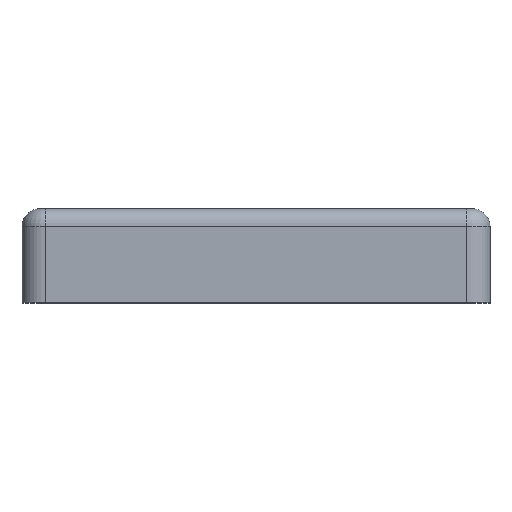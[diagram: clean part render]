
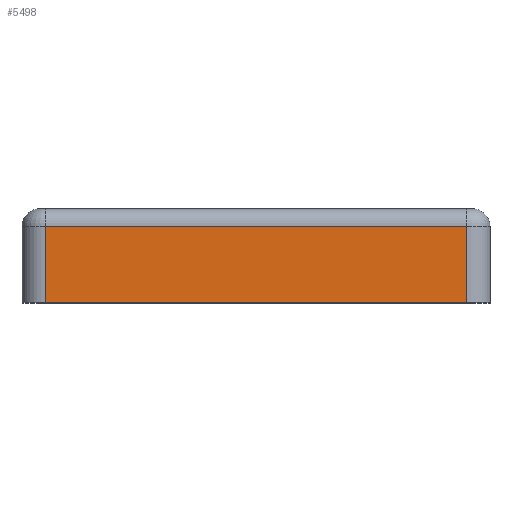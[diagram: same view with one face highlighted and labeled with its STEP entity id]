
A CAD part, top view. The second image highlights one B-rep face of the part: STEP entity #5498.
In plain terms, the highlighted planar face has unit normal (0, 0, 1).
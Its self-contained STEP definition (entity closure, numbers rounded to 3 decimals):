
#269 = VERTEX_POINT ( 'NONE', #4296 ) ;
#596 = LINE ( 'NONE', #2018, #5471 ) ;
#622 = ORIENTED_EDGE ( 'NONE', *, *, #4377, .F. ) ;
#840 = CARTESIAN_POINT ( 'NONE',  ( 36., 4.999, 48.001 ) ) ;
#901 = VERTEX_POINT ( 'NONE', #4747 ) ;
#1073 = VERTEX_POINT ( 'NONE', #8028 ) ;
#1131 = ORIENTED_EDGE ( 'NONE', *, *, #6275, .F. ) ;
#1188 = CARTESIAN_POINT ( 'NONE',  ( -40., -8.001, 48.001 ) ) ;
#1338 = ORIENTED_EDGE ( 'NONE', *, *, #5415, .F. ) ;
#2018 = CARTESIAN_POINT ( 'NONE',  ( -36., 7.999, 48.001 ) ) ;
#2303 = AXIS2_PLACEMENT_3D ( 'NONE', #5483, #8011, #4242 ) ;
#2397 = VECTOR ( 'NONE', #2872, 1000. ) ;
#2872 = DIRECTION ( 'NONE',  ( 1., 0., 0. ) ) ;
#3171 = ORIENTED_EDGE ( 'NONE', *, *, #4049, .F. ) ;
#3657 = VERTEX_POINT ( 'NONE', #840 ) ;
#3817 = VECTOR ( 'NONE', #7630, 1000. ) ;
#4049 = EDGE_CURVE ( 'NONE', #3657, #269, #7168, .T. ) ;
#4242 = DIRECTION ( 'NONE',  ( 0., 1., 0. ) ) ;
#4296 = CARTESIAN_POINT ( 'NONE',  ( 36., -8.001, 48.001 ) ) ;
#4377 = EDGE_CURVE ( 'NONE', #269, #1073, #7070, .T. ) ;
#4470 = CARTESIAN_POINT ( 'NONE',  ( 36., 7.999, 48.001 ) ) ;
#4747 = CARTESIAN_POINT ( 'NONE',  ( -36., 4.999, 48.001 ) ) ;
#5018 = DIRECTION ( 'NONE',  ( -1., 0., 0. ) ) ;
#5183 = FACE_OUTER_BOUND ( 'NONE', #6683, .T. ) ;
#5415 = EDGE_CURVE ( 'NONE', #901, #3657, #5962, .T. ) ;
#5471 = VECTOR ( 'NONE', #7064, 1000. ) ;
#5483 = CARTESIAN_POINT ( 'NONE',  ( 40., 7.999, 48.001 ) ) ;
#5498 = ADVANCED_FACE ( 'NONE', ( #5183 ), #6114, .F. ) ;
#5962 = LINE ( 'NONE', #6669, #2397 ) ;
#6114 = PLANE ( 'NONE',  #2303 ) ;
#6275 = EDGE_CURVE ( 'NONE', #1073, #901, #596, .T. ) ;
#6669 = CARTESIAN_POINT ( 'NONE',  ( -40., 4.999, 48.001 ) ) ;
#6683 = EDGE_LOOP ( 'NONE', ( #1131, #622, #3171, #1338 ) ) ;
#6878 = VECTOR ( 'NONE', #5018, 1000. ) ;
#7064 = DIRECTION ( 'NONE',  ( 0., 1., 0. ) ) ;
#7070 = LINE ( 'NONE', #1188, #6878 ) ;
#7168 = LINE ( 'NONE', #4470, #3817 ) ;
#7630 = DIRECTION ( 'NONE',  ( 0., -1., 0. ) ) ;
#8011 = DIRECTION ( 'NONE',  ( 0., 0., -1. ) ) ;
#8028 = CARTESIAN_POINT ( 'NONE',  ( -36., -8.001, 48.001 ) ) ;
